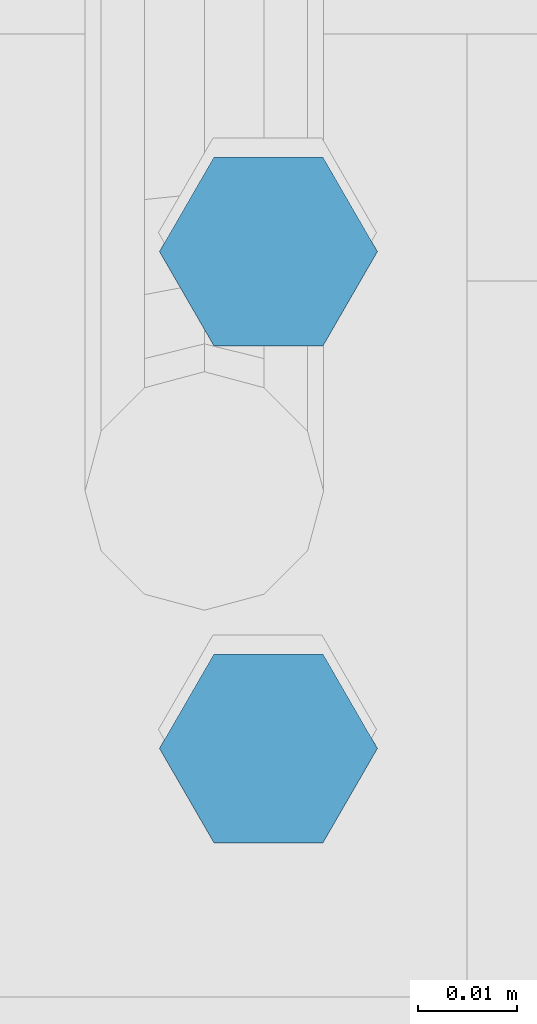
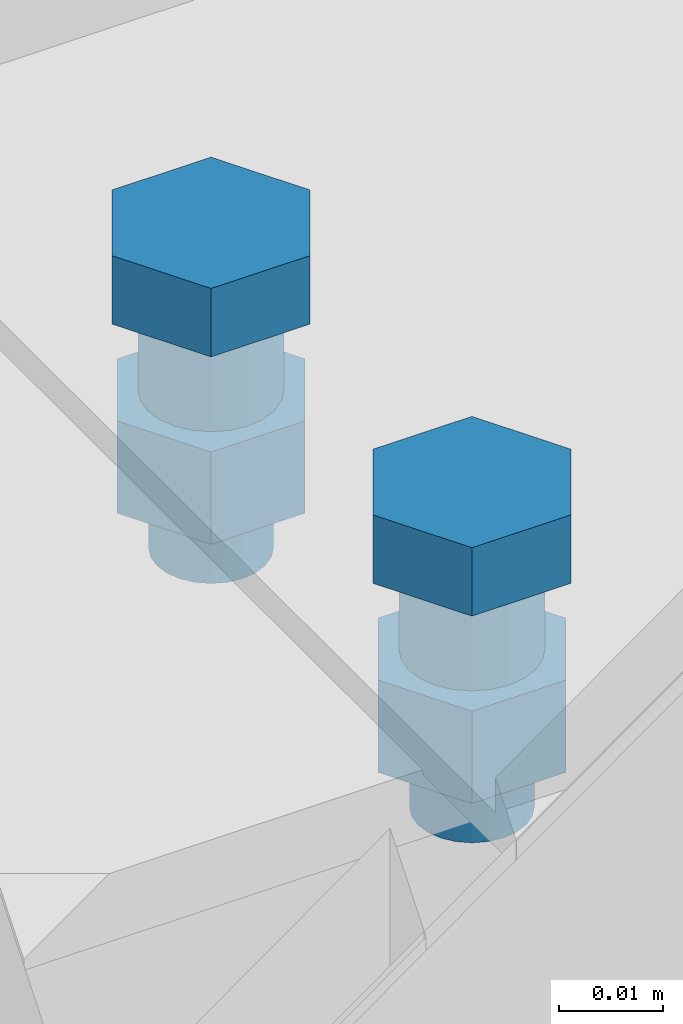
# One storey, part 17 of 21: 1 mechanical fastener.
"""IFC2X3 building model written with IfcOpenShell, lengths in millimetres."""

from ifc_helpers import new_model, si_unit, frame, origin_with_axes, place, context, project, spatial, faceted_brep, element, save


model = new_model("IFC2X3")

# Units and contexts
model_context_1 = context("Model", 3, precision=1e-05, world=origin_with_axes(), identifier="Body")
model_context_2 = context("Model", 3, precision=1e-05, world=origin_with_axes())
ifc_project = project(units=[si_unit("LENGTHUNIT", "METRE", prefix="MILLI"), si_unit("AREAUNIT", "SQUARE_METRE"), si_unit("VOLUMEUNIT", "CUBIC_METRE"), si_unit("MASSUNIT", "GRAM", prefix="KILO"), si_unit("TIMEUNIT", "SECOND"), si_unit("PLANEANGLEUNIT", "RADIAN"), si_unit("SOLIDANGLEUNIT", "STERADIAN"), si_unit("THERMODYNAMICTEMPERATUREUNIT", "DEGREE_CELSIUS"), si_unit("LUMINOUSINTENSITYUNIT", "LUMEN")], contexts=[model_context_1, model_context_2])

# Site, building, storey
site_placement = place(None, origin_with_axes())
site = spatial("IfcSite", under=ifc_project, at=site_placement, Name="Undefined", CompositionType="ELEMENT")
building_placement = place(site_placement, origin_with_axes())
building = spatial("IfcBuilding", under=site, at=building_placement, Name="Undefined", CompositionType="ELEMENT")
storey_placement = place(building_placement, origin_with_axes())
storey = spatial("IfcBuildingStorey", under=building, at=storey_placement, Name="Undefined", CompositionType="ELEMENT")

# Mechanical fastener
mechanical_fastener_placement = place(storey_placement, frame((66.44931, -156.90818, 5894.0172), z_axis=(6.323831e-15, -1.0, -5.4600005e-05), x_axis=(-1.0, 0.0, 4.8148249e-35)))
element("IfcMechanicalFastener", 1, at=mechanical_fastener_placement, inside=storey, Name="Bolt assembly", NominalDiameter=12.0, NominalLength=30.0, context=model_context_1, shape_type="Brep", body=[
    faceted_brep([(10.969655, -17.533323, 25.0), (5.4848276, -17.533323, 34.5), (-5.4848276, -17.533323, 34.5), (-10.969655, -17.533323, 25.0), (-5.4848276, -17.533323, 15.5), (5.4848276, -17.533323, 15.5), (5.4848276, -9.5333232, 15.5), (-5.4848276, -9.5333232, 15.5), (-10.969655, -9.5333232, 25.0), (-5.4848276, -9.5333232, 34.5), (5.4848276, -9.5333232, 34.5), (10.969655, -9.5333232, 25.0), (6.0, -9.5333232, 25.0), (5.795555, -9.5333232, 26.552914), (5.1961524, -9.5333232, 28.0), (4.2426407, -9.5333232, 29.242641), (3.0, -9.5333232, 30.196152), (1.5529143, -9.5333232, 30.795555), (-6.2180159e-13, -9.5333232, 31.0), (-1.5529143, -9.5333232, 30.795555), (-3.0, -9.5333232, 30.196152), (-4.2426407, -9.5333232, 29.242641), (-5.1961524, -9.5333232, 28.0), (-5.795555, -9.5333232, 26.552914), (-6.0, -9.5333232, 25.0), (-5.795555, -9.5333232, 23.447086), (-5.1961524, -9.5333232, 22.0), (-4.2426407, -9.5333232, 20.757359), (-3.0, -9.5333232, 19.803848), (-1.5529143, -9.5333232, 19.204445), (1.8587434e-12, -9.5333232, 19.0), (1.5529143, -9.5333232, 19.204445), (3.0, -9.5333232, 19.803848), (4.2426407, -9.5333232, 20.757359), (5.1961524, -9.5333232, 22.0), (5.795555, -9.5333232, 23.447086), (5.795555, 20.466677, 23.447086), (5.1961524, 20.466677, 22.0), (4.2426407, 20.466677, 20.757359), (3.0, 20.466677, 19.803848), (1.5529143, 20.466677, 19.204445), (1.8587434e-12, 20.466677, 19.0), (-1.5529143, 20.466677, 19.204445), (-3.0, 20.466677, 19.803848), (-4.2426407, 20.466677, 20.757359), (-5.1961524, 20.466677, 22.0), (-5.795555, 20.466677, 23.447086), (-6.0, 20.466677, 25.0), (-5.795555, 20.466677, 26.552914), (-5.1961524, 20.466677, 28.0), (-4.2426407, 20.466677, 29.242641), (-3.0, 20.466677, 30.196152), (-1.5529143, 20.466677, 30.795555), (-6.2180159e-13, 20.466677, 31.0), (1.5529143, 20.466677, 30.795555), (3.0, 20.466677, 30.196152), (4.2426407, 20.466677, 29.242641), (5.1961524, 20.466677, 28.0), (5.795555, 20.466677, 26.552914), (6.0, 20.466677, 25.0), (10.392305, 1.9994325, 25.0), (5.1961524, 1.9994325, 34.0), (-5.1961524, 1.9994325, 34.0), (-10.392305, 1.9994325, 25.0), (-5.1961524, 1.9994325, 16.0), (5.1961524, 1.9994325, 16.0), (5.1961524, 12.799433, 16.0), (-5.1961524, 12.799433, 16.0), (-10.392305, 12.799433, 25.0), (-5.1961524, 12.799433, 34.0), (5.1961524, 12.799433, 34.0), (10.392305, 12.799433, 25.0), (10.969655, -17.533323, -25.0), (5.4848276, -17.533323, -15.5), (-5.4848276, -17.533323, -15.5), (-10.969655, -17.533323, -25.0), (-5.4848276, -17.533323, -34.5), (5.4848276, -17.533323, -34.5), (5.4848276, -9.5333232, -34.5), (-5.4848276, -9.5333232, -34.5), (-10.969655, -9.5333232, -25.0), (-5.4848276, -9.5333232, -15.5), (5.4848276, -9.5333232, -15.5), (10.969655, -9.5333232, -25.0), (6.0, -9.5333232, -25.0), (5.795555, -9.5333232, -23.447086), (5.1961524, -9.5333232, -22.0), (4.2426407, -9.5333232, -20.757359), (3.0, -9.5333232, -19.803848), (1.5529143, -9.5333232, -19.204445), (-6.2180159e-13, -9.5333232, -19.0), (-1.5529143, -9.5333232, -19.204445), (-3.0, -9.5333232, -19.803848), (-4.2426407, -9.5333232, -20.757359), (-5.1961524, -9.5333232, -22.0), (-5.795555, -9.5333232, -23.447086), (-6.0, -9.5333232, -25.0), (-5.795555, -9.5333232, -26.552914), (-5.1961524, -9.5333232, -28.0), (-4.2426407, -9.5333232, -29.242641), (-3.0, -9.5333232, -30.196152), (-1.5529143, -9.5333232, -30.795555), (1.8587434e-12, -9.5333232, -31.0), (1.5529143, -9.5333232, -30.795555), (3.0, -9.5333232, -30.196152), (4.2426407, -9.5333232, -29.242641), (5.1961524, -9.5333232, -28.0), (5.795555, -9.5333232, -26.552914), (5.795555, 20.466677, -26.552914), (5.1961524, 20.466677, -28.0), (4.2426407, 20.466677, -29.242641), (3.0, 20.466677, -30.196152), (1.5529143, 20.466677, -30.795555), (1.8587434e-12, 20.466677, -31.0), (-1.5529143, 20.466677, -30.795555), (-3.0, 20.466677, -30.196152), (-4.2426407, 20.466677, -29.242641), (-5.1961524, 20.466677, -28.0), (-5.795555, 20.466677, -26.552914), (-6.0, 20.466677, -25.0), (-5.795555, 20.466677, -23.447086), (-5.1961524, 20.466677, -22.0), (-4.2426407, 20.466677, -20.757359), (-3.0, 20.466677, -19.803848), (-1.5529143, 20.466677, -19.204445), (-6.2180159e-13, 20.466677, -19.0), (1.5529143, 20.466677, -19.204445), (3.0, 20.466677, -19.803848), (4.2426407, 20.466677, -20.757359), (5.1961524, 20.466677, -22.0), (5.795555, 20.466677, -23.447086), (6.0, 20.466677, -25.0), (10.392305, 1.9994325, -25.0), (5.1961524, 1.9994325, -16.0), (-5.1961524, 1.9994325, -16.0), (-10.392305, 1.9994325, -25.0), (-5.1961524, 1.9994325, -34.0), (5.1961524, 1.9994325, -34.0), (5.1961524, 12.799433, -34.0), (-5.1961524, 12.799433, -34.0), (-10.392305, 12.799433, -25.0), (-5.1961524, 12.799433, -16.0), (5.1961524, 12.799433, -16.0), (10.392305, 12.799433, -25.0)], [[[0, 1, 2, 3, 4, 5]], [[6, 7, 8, 9, 10, 11]], [[0, 11, 10, 1]], [[1, 10, 9, 2]], [[2, 9, 8, 3]], [[3, 8, 7, 4]], [[4, 7, 6, 5]], [[5, 6, 11, 0]], [[12, 13, 14, 15, 16, 17, 18, 19, 20, 21, 22, 23, 24, 25, 26, 27, 28, 29, 30, 31, 32, 33, 34, 35]], [[36, 37, 38, 39, 40, 41, 42, 43, 44, 45, 46, 47, 48, 49, 50, 51, 52, 53, 54, 55, 56, 57, 58, 59]], [[12, 59, 58, 13]], [[13, 58, 57, 14]], [[14, 57, 56, 15]], [[15, 56, 55, 16]], [[16, 55, 54, 17]], [[17, 54, 53, 18]], [[18, 53, 52, 19]], [[19, 52, 51, 20]], [[20, 51, 50, 21]], [[21, 50, 49, 22]], [[22, 49, 48, 23]], [[23, 48, 47, 24]], [[24, 47, 46, 25]], [[25, 46, 45, 26]], [[26, 45, 44, 27]], [[27, 44, 43, 28]], [[28, 43, 42, 29]], [[29, 42, 41, 30]], [[30, 41, 40, 31]], [[31, 40, 39, 32]], [[32, 39, 38, 33]], [[33, 38, 37, 34]], [[34, 37, 36, 35]], [[35, 36, 59, 12]], [[60, 61, 62, 63, 64, 65]], [[66, 67, 68, 69, 70, 71]], [[60, 71, 70, 61]], [[61, 70, 69, 62]], [[62, 69, 68, 63]], [[63, 68, 67, 64]], [[64, 67, 66, 65]], [[65, 66, 71, 60]], [[72, 73, 74, 75, 76, 77]], [[78, 79, 80, 81, 82, 83]], [[72, 83, 82, 73]], [[73, 82, 81, 74]], [[74, 81, 80, 75]], [[75, 80, 79, 76]], [[76, 79, 78, 77]], [[77, 78, 83, 72]], [[84, 85, 86, 87, 88, 89, 90, 91, 92, 93, 94, 95, 96, 97, 98, 99, 100, 101, 102, 103, 104, 105, 106, 107]], [[108, 109, 110, 111, 112, 113, 114, 115, 116, 117, 118, 119, 120, 121, 122, 123, 124, 125, 126, 127, 128, 129, 130, 131]], [[84, 131, 130, 85]], [[85, 130, 129, 86]], [[86, 129, 128, 87]], [[87, 128, 127, 88]], [[88, 127, 126, 89]], [[89, 126, 125, 90]], [[90, 125, 124, 91]], [[91, 124, 123, 92]], [[92, 123, 122, 93]], [[93, 122, 121, 94]], [[94, 121, 120, 95]], [[95, 120, 119, 96]], [[96, 119, 118, 97]], [[97, 118, 117, 98]], [[98, 117, 116, 99]], [[99, 116, 115, 100]], [[100, 115, 114, 101]], [[101, 114, 113, 102]], [[102, 113, 112, 103]], [[103, 112, 111, 104]], [[104, 111, 110, 105]], [[105, 110, 109, 106]], [[106, 109, 108, 107]], [[107, 108, 131, 84]], [[132, 133, 134, 135, 136, 137]], [[138, 139, 140, 141, 142, 143]], [[132, 143, 142, 133]], [[133, 142, 141, 134]], [[134, 141, 140, 135]], [[135, 140, 139, 136]], [[136, 139, 138, 137]], [[137, 138, 143, 132]]]),
    faceted_brep([(7.0, -5.9005675, 25.0), (6.7614808, -5.9005675, 26.811733), (6.0621778, -5.9005675, 28.5), (4.9497475, -5.9005675, 29.949747), (3.5, -5.9005675, 31.062178), (1.8117333, -5.9005675, 31.761481), (-7.2543519e-13, -5.9005675, 32.0), (-1.8117333, -5.9005675, 31.761481), (-3.5, -5.9005675, 31.062178), (-4.9497475, -5.9005675, 29.949747), (-6.0621778, -5.9005675, 28.5), (-6.7614808, -5.9005675, 26.811733), (-7.0, -5.9005675, 25.0), (-6.7614808, -5.9005675, 23.188267), (-6.0621778, -5.9005675, 21.5), (-4.9497475, -5.9005675, 20.050253), (-3.5, -5.9005675, 18.937822), (-1.8117333, -5.9005675, 18.238519), (2.168534e-12, -5.9005675, 18.0), (1.8117333, -5.9005675, 18.238519), (3.5, -5.9005675, 18.937822), (4.9497475, -5.9005675, 20.050253), (6.0621778, -5.9005675, 21.5), (6.7614808, -5.9005675, 23.188267), (6.7614808, 2.0994325, 23.188267), (6.0621778, 2.0994325, 21.5), (4.9497475, 2.0994325, 20.050253), (3.5, 2.0994325, 18.937822), (1.8117333, 2.0994325, 18.238519), (2.168534e-12, 2.0994325, 18.0), (-1.8117333, 2.0994325, 18.238519), (-3.5, 2.0994325, 18.937822), (-4.9497475, 2.0994325, 20.050253), (-6.0621778, 2.0994325, 21.5), (-6.7614808, 2.0994325, 23.188267), (-7.0, 2.0994325, 25.0), (-6.7614808, 2.0994325, 26.811733), (-6.0621778, 2.0994325, 28.5), (-4.9497475, 2.0994325, 29.949747), (-3.5, 2.0994325, 31.062178), (-1.8117333, 2.0994325, 31.761481), (-7.2543519e-13, 2.0994325, 32.0), (1.8117333, 2.0994325, 31.761481), (3.5, 2.0994325, 31.062178), (4.9497475, 2.0994325, 29.949747), (6.0621778, 2.0994325, 28.5), (6.7614808, 2.0994325, 26.811733), (7.0, 2.0994325, 25.0), (7.0, -9.6333232, 25.0), (6.7614808, -9.6333232, 26.811733), (6.0621778, -9.6333232, 28.5), (4.9497475, -9.6333232, 29.949747), (3.5, -9.6333232, 31.062178), (1.8117333, -9.6333232, 31.761481), (-7.2543519e-13, -9.6333232, 32.0), (-1.8117333, -9.6333232, 31.761481), (-3.5, -9.6333232, 31.062178), (-4.9497475, -9.6333232, 29.949747), (-6.0621778, -9.6333232, 28.5), (-6.7614808, -9.6333232, 26.811733), (-7.0, -9.6333232, 25.0), (-6.7614808, -9.6333232, 23.188267), (-6.0621778, -9.6333232, 21.5), (-4.9497475, -9.6333232, 20.050253), (-3.5, -9.6333232, 18.937822), (-1.8117333, -9.6333232, 18.238519), (2.168534e-12, -9.6333232, 18.0), (1.8117333, -9.6333232, 18.238519), (3.5, -9.6333232, 18.937822), (4.9497475, -9.6333232, 20.050253), (6.0621778, -9.6333232, 21.5), (6.7614808, -9.6333232, 23.188267), (6.7614808, -5.5333232, 23.188267), (6.0621778, -5.5333232, 21.5), (4.9497475, -5.5333232, 20.050253), (3.5, -5.5333232, 18.937822), (1.8117333, -5.5333232, 18.238519), (2.168534e-12, -5.5333232, 18.0), (-1.8117333, -5.5333232, 18.238519), (-3.5, -5.5333232, 18.937822), (-4.9497475, -5.5333232, 20.050253), (-6.0621778, -5.5333232, 21.5), (-6.7614808, -5.5333232, 23.188267), (-7.0, -5.5333232, 25.0), (-6.7614808, -5.5333232, 26.811733), (-6.0621778, -5.5333232, 28.5), (-4.9497475, -5.5333232, 29.949747), (-3.5, -5.5333232, 31.062178), (-1.8117333, -5.5333232, 31.761481), (-7.2543519e-13, -5.5333232, 32.0), (1.8117333, -5.5333232, 31.761481), (3.5, -5.5333232, 31.062178), (4.9497475, -5.5333232, 29.949747), (6.0621778, -5.5333232, 28.5), (6.7614808, -5.5333232, 26.811733), (7.0, -5.5333232, 25.0), (7.0, -5.9005675, -25.0), (6.7614808, -5.9005675, -23.188267), (6.0621778, -5.9005675, -21.5), (4.9497475, -5.9005675, -20.050253), (3.5, -5.9005675, -18.937822), (1.8117333, -5.9005675, -18.238519), (-7.2543519e-13, -5.9005675, -18.0), (-1.8117333, -5.9005675, -18.238519), (-3.5, -5.9005675, -18.937822), (-4.9497475, -5.9005675, -20.050253), (-6.0621778, -5.9005675, -21.5), (-6.7614808, -5.9005675, -23.188267), (-7.0, -5.9005675, -25.0), (-6.7614808, -5.9005675, -26.811733), (-6.0621778, -5.9005675, -28.5), (-4.9497475, -5.9005675, -29.949747), (-3.5, -5.9005675, -31.062178), (-1.8117333, -5.9005675, -31.761481), (2.168534e-12, -5.9005675, -32.0), (1.8117333, -5.9005675, -31.761481), (3.5, -5.9005675, -31.062178), (4.9497475, -5.9005675, -29.949747), (6.0621778, -5.9005675, -28.5), (6.7614808, -5.9005675, -26.811733), (6.7614808, 2.0994325, -26.811733), (6.0621778, 2.0994325, -28.5), (4.9497475, 2.0994325, -29.949747), (3.5, 2.0994325, -31.062178), (1.8117333, 2.0994325, -31.761481), (2.168534e-12, 2.0994325, -32.0), (-1.8117333, 2.0994325, -31.761481), (-3.5, 2.0994325, -31.062178), (-4.9497475, 2.0994325, -29.949747), (-6.0621778, 2.0994325, -28.5), (-6.7614808, 2.0994325, -26.811733), (-7.0, 2.0994325, -25.0), (-6.7614808, 2.0994325, -23.188267), (-6.0621778, 2.0994325, -21.5), (-4.9497475, 2.0994325, -20.050253), (-3.5, 2.0994325, -18.937822), (-1.8117333, 2.0994325, -18.238519), (-7.2543519e-13, 2.0994325, -18.0), (1.8117333, 2.0994325, -18.238519), (3.5, 2.0994325, -18.937822), (4.9497475, 2.0994325, -20.050253), (6.0621778, 2.0994325, -21.5), (6.7614808, 2.0994325, -23.188267), (7.0, 2.0994325, -25.0), (7.0, -9.6333232, -25.0), (6.7614808, -9.6333232, -23.188267), (6.0621778, -9.6333232, -21.5), (4.9497475, -9.6333232, -20.050253), (3.5, -9.6333232, -18.937822), (1.8117333, -9.6333232, -18.238519), (-7.2543519e-13, -9.6333232, -18.0), (-1.8117333, -9.6333232, -18.238519), (-3.5, -9.6333232, -18.937822), (-4.9497475, -9.6333232, -20.050253), (-6.0621778, -9.6333232, -21.5), (-6.7614808, -9.6333232, -23.188267), (-7.0, -9.6333232, -25.0), (-6.7614808, -9.6333232, -26.811733), (-6.0621778, -9.6333232, -28.5), (-4.9497475, -9.6333232, -29.949747), (-3.5, -9.6333232, -31.062178), (-1.8117333, -9.6333232, -31.761481), (2.168534e-12, -9.6333232, -32.0), (1.8117333, -9.6333232, -31.761481), (3.5, -9.6333232, -31.062178), (4.9497475, -9.6333232, -29.949747), (6.0621778, -9.6333232, -28.5), (6.7614808, -9.6333232, -26.811733), (6.7614808, -5.5333232, -26.811733), (6.0621778, -5.5333232, -28.5), (4.9497475, -5.5333232, -29.949747), (3.5, -5.5333232, -31.062178), (1.8117333, -5.5333232, -31.761481), (2.168534e-12, -5.5333232, -32.0), (-1.8117333, -5.5333232, -31.761481), (-3.5, -5.5333232, -31.062178), (-4.9497475, -5.5333232, -29.949747), (-6.0621778, -5.5333232, -28.5), (-6.7614808, -5.5333232, -26.811733), (-7.0, -5.5333232, -25.0), (-6.7614808, -5.5333232, -23.188267), (-6.0621778, -5.5333232, -21.5), (-4.9497475, -5.5333232, -20.050253), (-3.5, -5.5333232, -18.937822), (-1.8117333, -5.5333232, -18.238519), (-7.2543519e-13, -5.5333232, -18.0), (1.8117333, -5.5333232, -18.238519), (3.5, -5.5333232, -18.937822), (4.9497475, -5.5333232, -20.050253), (6.0621778, -5.5333232, -21.5), (6.7614808, -5.5333232, -23.188267), (7.0, -5.5333232, -25.0)], [[[0, 1, 2, 3, 4, 5, 6, 7, 8, 9, 10, 11, 12, 13, 14, 15, 16, 17, 18, 19, 20, 21, 22, 23]], [[24, 25, 26, 27, 28, 29, 30, 31, 32, 33, 34, 35, 36, 37, 38, 39, 40, 41, 42, 43, 44, 45, 46, 47]], [[0, 47, 46, 1]], [[1, 46, 45, 2]], [[2, 45, 44, 3]], [[3, 44, 43, 4]], [[4, 43, 42, 5]], [[5, 42, 41, 6]], [[6, 41, 40, 7]], [[7, 40, 39, 8]], [[8, 39, 38, 9]], [[9, 38, 37, 10]], [[10, 37, 36, 11]], [[11, 36, 35, 12]], [[12, 35, 34, 13]], [[13, 34, 33, 14]], [[14, 33, 32, 15]], [[15, 32, 31, 16]], [[16, 31, 30, 17]], [[17, 30, 29, 18]], [[18, 29, 28, 19]], [[19, 28, 27, 20]], [[20, 27, 26, 21]], [[21, 26, 25, 22]], [[22, 25, 24, 23]], [[23, 24, 47, 0]], [[48, 49, 50, 51, 52, 53, 54, 55, 56, 57, 58, 59, 60, 61, 62, 63, 64, 65, 66, 67, 68, 69, 70, 71]], [[72, 73, 74, 75, 76, 77, 78, 79, 80, 81, 82, 83, 84, 85, 86, 87, 88, 89, 90, 91, 92, 93, 94, 95]], [[48, 95, 94, 49]], [[49, 94, 93, 50]], [[50, 93, 92, 51]], [[51, 92, 91, 52]], [[52, 91, 90, 53]], [[53, 90, 89, 54]], [[54, 89, 88, 55]], [[55, 88, 87, 56]], [[56, 87, 86, 57]], [[57, 86, 85, 58]], [[58, 85, 84, 59]], [[59, 84, 83, 60]], [[60, 83, 82, 61]], [[61, 82, 81, 62]], [[62, 81, 80, 63]], [[63, 80, 79, 64]], [[64, 79, 78, 65]], [[65, 78, 77, 66]], [[66, 77, 76, 67]], [[67, 76, 75, 68]], [[68, 75, 74, 69]], [[69, 74, 73, 70]], [[70, 73, 72, 71]], [[71, 72, 95, 48]], [[96, 97, 98, 99, 100, 101, 102, 103, 104, 105, 106, 107, 108, 109, 110, 111, 112, 113, 114, 115, 116, 117, 118, 119]], [[120, 121, 122, 123, 124, 125, 126, 127, 128, 129, 130, 131, 132, 133, 134, 135, 136, 137, 138, 139, 140, 141, 142, 143]], [[96, 143, 142, 97]], [[97, 142, 141, 98]], [[98, 141, 140, 99]], [[99, 140, 139, 100]], [[100, 139, 138, 101]], [[101, 138, 137, 102]], [[102, 137, 136, 103]], [[103, 136, 135, 104]], [[104, 135, 134, 105]], [[105, 134, 133, 106]], [[106, 133, 132, 107]], [[107, 132, 131, 108]], [[108, 131, 130, 109]], [[109, 130, 129, 110]], [[110, 129, 128, 111]], [[111, 128, 127, 112]], [[112, 127, 126, 113]], [[113, 126, 125, 114]], [[114, 125, 124, 115]], [[115, 124, 123, 116]], [[116, 123, 122, 117]], [[117, 122, 121, 118]], [[118, 121, 120, 119]], [[119, 120, 143, 96]], [[144, 145, 146, 147, 148, 149, 150, 151, 152, 153, 154, 155, 156, 157, 158, 159, 160, 161, 162, 163, 164, 165, 166, 167]], [[168, 169, 170, 171, 172, 173, 174, 175, 176, 177, 178, 179, 180, 181, 182, 183, 184, 185, 186, 187, 188, 189, 190, 191]], [[144, 191, 190, 145]], [[145, 190, 189, 146]], [[146, 189, 188, 147]], [[147, 188, 187, 148]], [[148, 187, 186, 149]], [[149, 186, 185, 150]], [[150, 185, 184, 151]], [[151, 184, 183, 152]], [[152, 183, 182, 153]], [[153, 182, 181, 154]], [[154, 181, 180, 155]], [[155, 180, 179, 156]], [[156, 179, 178, 157]], [[157, 178, 177, 158]], [[158, 177, 176, 159]], [[159, 176, 175, 160]], [[160, 175, 174, 161]], [[161, 174, 173, 162]], [[162, 173, 172, 163]], [[163, 172, 171, 164]], [[164, 171, 170, 165]], [[165, 170, 169, 166]], [[166, 169, 168, 167]], [[167, 168, 191, 144]]]),
])

save(model, "model.ifc")
